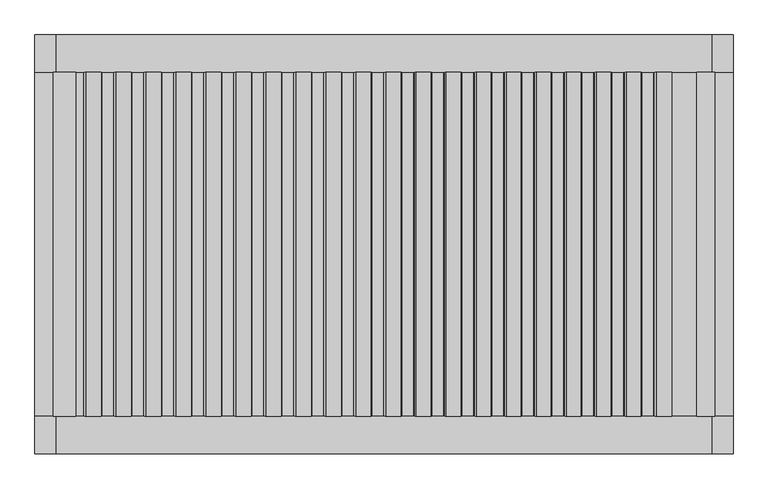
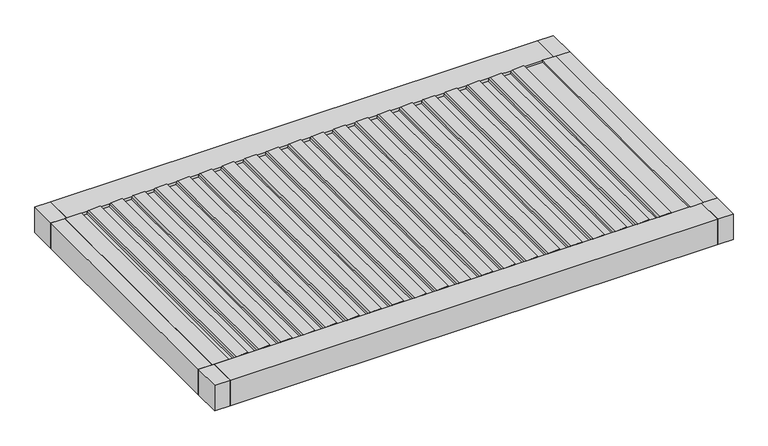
"""IFC4 building model written with IfcOpenShell, lengths in millimetres: proxy geometry, Renson_Aero_Skye_Patio covers : Aero Skye - Single."""

from ifc_helpers import new_model, si_unit, point, frame, frame_2d, origin, place, context, project, spatial, polyline, circle_curve, trimmed, segment, composite_curve, outline, extrude, source, transform, mapped, element, save


def generic_models_02a216a0(model_context):
    return source(origin(), model_context, "Body", "SweptSolid", [
        extrude(outline(composite_curve([segment(polyline([(-41.65, 1816.1728722), (-13.98802, 1818.5929819), (-12.6029636, 1847.4282323), (6.8911096, 1843.9909012), (1.6075693, 1733.9937864)]), True, "CONTINUOUS"), segment(trimmed(circle_curve(frame_2d((-13.3751565, 1734.7134583)), 15.0), [point((1.6075693, 1733.9937864))], [point((-10.7704338, 1719.941342))], False, "CARTESIAN"), True, "CONTINUOUS"), segment(polyline([(-10.7704338, 1719.941342), (-30.0, 1716.5506507), (-30.0, 1628.8148746), (-12.9211763, 1625.8034172), (-13.6549818, 1610.5264468), (-41.65, 1608.0772), (-41.65, 1816.1728722)]), True, "CONTINUOUS")], self_intersect=False)), frame((0.0, -1232.0, 0.0), z_axis=(0.0, 1.0, 0.0), x_axis=(0.0, 0.0, 1.0)), (0.0, 0.0, 1.0), 2464.0),
        extrude(outline(composite_curve([segment(polyline([(-41.65, 1601.1637734), (-13.98802, 1603.5838831), (-12.6029636, 1632.4191335), (6.8911096, 1628.9818025), (1.6075693, 1518.9846876)]), True, "CONTINUOUS"), segment(trimmed(circle_curve(frame_2d((-13.3751565, 1519.7043596)), 15.0), [point((1.6075693, 1518.9846876))], [point((-10.7704338, 1504.9322433))], False, "CARTESIAN"), True, "CONTINUOUS"), segment(polyline([(-10.7704338, 1504.9322433), (-30.0, 1501.5415519), (-30.0, 1413.8057759), (-12.9211763, 1410.7943185), (-13.6549818, 1395.517348), (-41.65, 1393.0681013), (-41.65, 1601.1637734)]), True, "CONTINUOUS")], self_intersect=False)), frame((0.0, -1232.0, 0.0), z_axis=(0.0, 1.0, 0.0), x_axis=(0.0, 0.0, 1.0)), (0.0, 0.0, 1.0), 2464.0),
        extrude(outline(composite_curve([segment(polyline([(-41.65, 1386.1546747), (-13.98802, 1388.5747843), (-12.6029636, 1417.4100348), (6.8911096, 1413.9727037), (1.6075693, 1303.9755889)]), True, "CONTINUOUS"), segment(trimmed(circle_curve(frame_2d((-13.3751565, 1304.6952608)), 15.0), [point((1.6075693, 1303.9755889))], [point((-10.7704338, 1289.9231445))], False, "CARTESIAN"), True, "CONTINUOUS"), segment(polyline([(-10.7704338, 1289.9231445), (-30.0, 1286.5324532), (-30.0, 1198.7966771), (-12.9211763, 1195.7852197), (-13.6549818, 1180.5082492), (-41.65, 1178.0590025), (-41.65, 1386.1546747)]), True, "CONTINUOUS")], self_intersect=False)), frame((0.0, -1232.0, 0.0), z_axis=(0.0, 1.0, 0.0), x_axis=(0.0, 0.0, 1.0)), (0.0, 0.0, 1.0), 2464.0),
        extrude(outline(composite_curve([segment(polyline([(-41.65, 1171.1455759), (-13.98802, 1173.5656856), (-12.6029636, 1202.400936), (6.8911096, 1198.9636049), (1.6075693, 1088.9664901)]), True, "CONTINUOUS"), segment(trimmed(circle_curve(frame_2d((-13.3751565, 1089.686162)), 15.0), [point((1.6075693, 1088.9664901))], [point((-10.7704338, 1074.9140457))], False, "CARTESIAN"), True, "CONTINUOUS"), segment(polyline([(-10.7704338, 1074.9140457), (-30.0, 1071.5233544), (-30.0, 983.7875784), (-12.9211763, 980.7761209), (-13.6549818, 965.4991505), (-41.65, 963.0499037), (-41.65, 1171.1455759)]), True, "CONTINUOUS")], self_intersect=False)), frame((0.0, -1232.0, 0.0), z_axis=(0.0, 1.0, 0.0), x_axis=(0.0, 0.0, 1.0)), (0.0, 0.0, 1.0), 2464.0),
        extrude(outline(composite_curve([segment(polyline([(-41.65, 956.1364771), (-13.98802, 958.5565868), (-12.6029636, 987.3918373), (6.8911096, 983.9545062), (1.6075693, 873.9573913)]), True, "CONTINUOUS"), segment(trimmed(circle_curve(frame_2d((-13.3751565, 874.6770633)), 15.0), [point((1.6075693, 873.9573913))], [point((-10.7704338, 859.904947))], False, "CARTESIAN"), True, "CONTINUOUS"), segment(polyline([(-10.7704338, 859.904947), (-30.0, 856.5142556), (-30.0, 768.7784796), (-12.9211763, 765.7670222), (-13.6549818, 750.4900517), (-41.65, 748.040805), (-41.65, 956.1364771)]), True, "CONTINUOUS")], self_intersect=False)), frame((0.0, -1232.0, 0.0), z_axis=(0.0, 1.0, 0.0), x_axis=(0.0, 0.0, 1.0)), (0.0, 0.0, 1.0), 2464.0),
        extrude(outline(composite_curve([segment(polyline([(-41.65, 741.1273784), (-13.98802, 743.547488), (-12.6029636, 772.3827385), (6.8911096, 768.9454074), (1.6075693, 658.9482926)]), True, "CONTINUOUS"), segment(trimmed(circle_curve(frame_2d((-13.3751565, 659.6679645)), 15.0), [point((1.6075693, 658.9482926))], [point((-10.7704338, 644.8958482))], False, "CARTESIAN"), True, "CONTINUOUS"), segment(polyline([(-10.7704338, 644.8958482), (-30.0, 641.5051569), (-30.0, 553.7693808), (-12.9211763, 550.7579234), (-13.6549818, 535.4809529), (-41.65, 533.0317062), (-41.65, 741.1273784)]), True, "CONTINUOUS")], self_intersect=False)), frame((0.0, -1232.0, 0.0), z_axis=(0.0, 1.0, 0.0), x_axis=(0.0, 0.0, 1.0)), (0.0, 0.0, 1.0), 2464.0),
        extrude(outline(composite_curve([segment(polyline([(-41.65, 526.1182796), (-13.98802, 528.5383893), (-12.6029636, 557.3736397), (6.8911096, 553.9363087), (1.6075693, 443.9391938)]), True, "CONTINUOUS"), segment(trimmed(circle_curve(frame_2d((-13.3751565, 444.6588657)), 15.0), [point((1.6075693, 443.9391938))], [point((-10.7704338, 429.8867494))], False, "CARTESIAN"), True, "CONTINUOUS"), segment(polyline([(-10.7704338, 429.8867494), (-30.0, 426.4960581), (-30.0, 338.7602821), (-12.9211763, 335.7488247), (-13.6549818, 320.4718542), (-41.65, 318.0226075), (-41.65, 526.1182796)]), True, "CONTINUOUS")], self_intersect=False)), frame((0.0, -1232.0, 0.0), z_axis=(0.0, 1.0, 0.0), x_axis=(0.0, 0.0, 1.0)), (0.0, 0.0, 1.0), 2464.0),
        extrude(outline(composite_curve([segment(polyline([(-41.65, 311.1091809), (-13.98802, 313.5292905), (-12.6029636, 342.364541), (6.8911096, 338.9272099), (1.6075693, 228.930095)]), True, "CONTINUOUS"), segment(trimmed(circle_curve(frame_2d((-13.3751565, 229.649767)), 15.0), [point((1.6075693, 228.930095))], [point((-10.7704338, 214.8776507))], False, "CARTESIAN"), True, "CONTINUOUS"), segment(polyline([(-10.7704338, 214.8776507), (-30.0, 211.4869593), (-30.0, 123.7511833), (-12.9211763, 120.7397259), (-13.6549818, 105.4627554), (-41.65, 103.0135087), (-41.65, 311.1091809)]), True, "CONTINUOUS")], self_intersect=False)), frame((0.0, -1232.0, 0.0), z_axis=(0.0, 1.0, 0.0), x_axis=(0.0, 0.0, 1.0)), (0.0, 0.0, 1.0), 2464.0),
        extrude(outline(composite_curve([segment(polyline([(-41.65, 96.1000821), (-13.98802, 98.5201917), (-12.6029636, 127.3554422), (6.8911096, 123.9181111), (1.6075693, 13.9209963)]), True, "CONTINUOUS"), segment(trimmed(circle_curve(frame_2d((-13.3751565, 14.6406682)), 15.0), [point((1.6075693, 13.9209963))], [point((-10.7704338, -0.1314481))], False, "CARTESIAN"), True, "CONTINUOUS"), segment(polyline([(-10.7704338, -0.1314481), (-30.0, -3.5221394), (-30.0, -91.2579155), (-12.9211763, -94.2693729), (-13.6549818, -109.5463433), (-41.65, -111.9955901), (-41.65, 96.1000821)]), True, "CONTINUOUS")], self_intersect=False)), frame((0.0, -1232.0, 0.0), z_axis=(0.0, 1.0, 0.0), x_axis=(0.0, 0.0, 1.0)), (0.0, 0.0, 1.0), 2464.0),
        extrude(outline(composite_curve([segment(polyline([(-41.65, -118.9090167), (-13.98802, -116.488907), (-12.6029636, -87.6536566), (6.8911096, -91.0909876), (1.6075693, -201.0881025)]), True, "CONTINUOUS"), segment(trimmed(circle_curve(frame_2d((-13.3751565, -200.3684306)), 15.0), [point((1.6075693, -201.0881025))], [point((-10.7704338, -215.1405469))], False, "CARTESIAN"), True, "CONTINUOUS"), segment(polyline([(-10.7704338, -215.1405469), (-30.0, -218.5312382), (-30.0, -306.2670142), (-12.9211763, -309.2784716), (-13.6549818, -324.5554421), (-41.65, -327.0046888), (-41.65, -118.9090167)]), True, "CONTINUOUS")], self_intersect=False)), frame((0.0, -1232.0, 0.0), z_axis=(0.0, 1.0, 0.0), x_axis=(0.0, 0.0, 1.0)), (0.0, 0.0, 1.0), 2464.0),
        extrude(outline(composite_curve([segment(polyline([(-41.65, -333.9181154), (-13.98802, -331.4980058), (-12.6029636, -302.6627553), (6.8911096, -306.1000864), (1.6075693, -416.0972012)]), True, "CONTINUOUS"), segment(trimmed(circle_curve(frame_2d((-13.3751565, -415.3775293)), 15.0), [point((1.6075693, -416.0972012))], [point((-10.7704338, -430.1496456))], False, "CARTESIAN"), True, "CONTINUOUS"), segment(polyline([(-10.7704338, -430.1496456), (-30.0, -433.540337), (-30.0, -521.276113), (-12.9211763, -524.2875704), (-13.6549818, -539.5645409), (-41.65, -542.0137876), (-41.65, -333.9181154)]), True, "CONTINUOUS")], self_intersect=False)), frame((0.0, -1232.0, 0.0), z_axis=(0.0, 1.0, 0.0), x_axis=(0.0, 0.0, 1.0)), (0.0, 0.0, 1.0), 2464.0),
        extrude(outline(composite_curve([segment(polyline([(-41.65, -548.9272142), (-13.98802, -546.5071045), (-12.6029636, -517.6718541), (6.8911096, -521.1091852), (1.6075693, -631.1063)]), True, "CONTINUOUS"), segment(trimmed(circle_curve(frame_2d((-13.3751565, -630.3866281)), 15.0), [point((1.6075693, -631.1063))], [point((-10.7704338, -645.1587444))], False, "CARTESIAN"), True, "CONTINUOUS"), segment(polyline([(-10.7704338, -645.1587444), (-30.0, -648.5494357), (-30.0, -736.2852117), (-12.9211763, -739.2966692), (-13.6549818, -754.5736396), (-41.65, -757.0228864), (-41.65, -548.9272142)]), True, "CONTINUOUS")], self_intersect=False)), frame((0.0, -1232.0, 0.0), z_axis=(0.0, 1.0, 0.0), x_axis=(0.0, 0.0, 1.0)), (0.0, 0.0, 1.0), 2464.0),
        extrude(outline(composite_curve([segment(polyline([(-41.65, -763.936313), (-13.98802, -761.5162033), (-12.6029636, -732.6809528), (6.8911096, -736.1182839), (1.6075693, -846.1153988)]), True, "CONTINUOUS"), segment(trimmed(circle_curve(frame_2d((-13.3751565, -845.3957268)), 15.0), [point((1.6075693, -846.1153988))], [point((-10.7704338, -860.1678431))], False, "CARTESIAN"), True, "CONTINUOUS"), segment(polyline([(-10.7704338, -860.1678431), (-30.0, -863.5585345), (-30.0, -951.2943105), (-12.9211763, -954.3057679), (-13.6549818, -969.5827384), (-41.65, -972.0319851), (-41.65, -763.936313)]), True, "CONTINUOUS")], self_intersect=False)), frame((0.0, -1232.0, 0.0), z_axis=(0.0, 1.0, 0.0), x_axis=(0.0, 0.0, 1.0)), (0.0, 0.0, 1.0), 2464.0),
        extrude(outline(composite_curve([segment(polyline([(-41.65, -978.9454117), (-13.98802, -976.5253021), (-12.6029636, -947.6900516), (6.8911096, -951.1273827), (1.6075693, -1061.1244975)]), True, "CONTINUOUS"), segment(trimmed(circle_curve(frame_2d((-13.3751565, -1060.4048256)), 15.0), [point((1.6075693, -1061.1244975))], [point((-10.7704338, -1075.1769419))], False, "CARTESIAN"), True, "CONTINUOUS"), segment(polyline([(-10.7704338, -1075.1769419), (-30.0, -1078.5676332), (-30.0, -1166.3034093), (-12.9211763, -1169.3148667), (-13.6549818, -1184.5918372), (-41.65, -1187.0410839), (-41.65, -978.9454117)]), True, "CONTINUOUS")], self_intersect=False)), frame((0.0, -1232.0, 0.0), z_axis=(0.0, 1.0, 0.0), x_axis=(0.0, 0.0, 1.0)), (0.0, 0.0, 1.0), 2464.0),
        extrude(outline(composite_curve([segment(polyline([(-41.65, -1193.9545105), (-13.98802, -1191.5344008), (-12.6029636, -1162.6991504), (6.8911096, -1166.1364815), (1.6075693, -1276.1335963)]), True, "CONTINUOUS"), segment(trimmed(circle_curve(frame_2d((-13.3751565, -1275.4139244)), 15.0), [point((1.6075693, -1276.1335963))], [point((-10.7704338, -1290.1860407))], False, "CARTESIAN"), True, "CONTINUOUS"), segment(polyline([(-10.7704338, -1290.1860407), (-30.0, -1293.576732), (-30.0, -1381.312508), (-12.9211763, -1384.3239655), (-13.6549818, -1399.6009359), (-41.65, -1402.0501827), (-41.65, -1193.9545105)]), True, "CONTINUOUS")], self_intersect=False)), frame((0.0, -1232.0, 0.0), z_axis=(0.0, 1.0, 0.0), x_axis=(0.0, 0.0, 1.0)), (0.0, 0.0, 1.0), 2464.0),
        extrude(outline(composite_curve([segment(polyline([(-41.65, -1408.9636093), (-13.98802, -1406.5434996), (-12.6029636, -1377.7082491), (6.8911096, -1381.1455802), (1.6075693, -1491.1426951)]), True, "CONTINUOUS"), segment(trimmed(circle_curve(frame_2d((-13.3751565, -1490.4230231)), 15.0), [point((1.6075693, -1491.1426951))], [point((-10.7704338, -1505.1951394))], False, "CARTESIAN"), True, "CONTINUOUS"), segment(polyline([(-10.7704338, -1505.1951394), (-30.0, -1508.5858308), (-30.0, -1596.3216068), (-12.9211763, -1599.3330642), (-13.6549818, -1614.6100347), (-41.65, -1617.0592814), (-41.65, -1408.9636093)]), True, "CONTINUOUS")], self_intersect=False)), frame((0.0, -1232.0, 0.0), z_axis=(0.0, 1.0, 0.0), x_axis=(0.0, 0.0, 1.0)), (0.0, 0.0, 1.0), 2464.0),
        extrude(outline(composite_curve([segment(polyline([(-41.65, -1623.972708), (-13.98802, -1621.5525984), (-12.6029636, -1592.7173479), (6.8911096, -1596.154679), (1.6075693, -1706.1517938)]), True, "CONTINUOUS"), segment(trimmed(circle_curve(frame_2d((-13.3751565, -1705.4321219)), 15.0), [point((1.6075693, -1706.1517938))], [point((-10.7704338, -1720.2042382))], False, "CARTESIAN"), True, "CONTINUOUS"), segment(polyline([(-10.7704338, -1720.2042382), (-30.0, -1723.5949295), (-30.0, -1811.3307056), (-12.9211763, -1814.342163), (-13.6549818, -1829.6191335), (-41.65, -1832.0683802), (-41.65, -1623.972708)]), True, "CONTINUOUS")], self_intersect=False)), frame((0.0, -1232.0, 0.0), z_axis=(0.0, 1.0, 0.0), x_axis=(0.0, 0.0, 1.0)), (0.0, 0.0, 1.0), 2464.0),
        extrude(outline(composite_curve([segment(polyline([(-41.65, -1838.9818068), (-13.98802, -1836.5616971), (-12.6029636, -1807.7264467), (6.8911096, -1811.1637777), (1.6075693, -1921.1608926)]), True, "CONTINUOUS"), segment(trimmed(circle_curve(frame_2d((-13.3751565, -1920.4412207)), 15.0), [point((1.6075693, -1921.1608926))], [point((-10.7704338, -1935.213337))], False, "CARTESIAN"), True, "CONTINUOUS"), segment(polyline([(-10.7704338, -1935.213337), (-30.0, -1938.6040283), (-30.0, -2026.3398043), (-12.9211763, -2029.3512617), (-13.6549818, -2044.6282322), (-41.65, -2047.0774789), (-41.65, -1838.9818068)]), True, "CONTINUOUS")], self_intersect=False)), frame((0.0, -1232.0, 0.0), z_axis=(0.0, 1.0, 0.0), x_axis=(0.0, 0.0, 1.0)), (0.0, 0.0, 1.0), 2464.0),
        extrude(outline(composite_curve([segment(polyline([(-41.65, 2031.181971), (-13.98802, 2033.6020806), (-12.6029636, 2062.4373311), (6.8911096, 2059.0), (1.6075693, 1949.0028852)]), True, "CONTINUOUS"), segment(trimmed(circle_curve(frame_2d((-13.3751565, 1949.7225571)), 15.0), [point((1.6075693, 1949.0028852))], [point((-10.7704338, 1934.9504408))], False, "CARTESIAN"), True, "CONTINUOUS"), segment(polyline([(-10.7704338, 1934.9504408), (-30.0, 1931.5597494), (-30.0, 1843.8239734), (-12.9211763, 1840.812516), (-13.6549818, 1825.5355455), (-41.65, 1823.0862988), (-41.65, 2031.181971)]), True, "CONTINUOUS")], self_intersect=False)), frame((0.0, -1232.0, 0.0), z_axis=(0.0, 1.0, 0.0), x_axis=(0.0, 0.0, 1.0)), (0.0, 0.0, 1.0), 2464.0),
        extrude(outline(composite_curve([segment(polyline([(-41.65, -2053.9909055), (-13.98802, -2051.5707959), (-12.6029636, -2022.7355454), (6.8911096, -2026.1728765), (1.6075693, -2136.1699914)]), True, "CONTINUOUS"), segment(trimmed(circle_curve(frame_2d((-13.3751565, -2135.4503194)), 15.0), [point((1.6075693, -2136.1699914))], [point((-10.7704338, -2150.2224357))], False, "CARTESIAN"), True, "CONTINUOUS"), segment(polyline([(-10.7704338, -2150.2224357), (-30.0, -2153.6131271), (-30.0, -2241.3489031), (-12.9211763, -2244.3603605), (-13.6549818, -2259.637331), (-41.65, -2262.0865777), (-41.65, -2053.9909055)]), True, "CONTINUOUS")], self_intersect=False)), frame((0.0, -1232.0, 0.0), z_axis=(0.0, 1.0, 0.0), x_axis=(0.0, 0.0, 1.0)), (0.0, 0.0, 1.0), 2464.0),
        extrude(outline(polyline([(-63.35, 2369.0), (0.0, 2369.0), (0.0, 2239.5), (-20.0, 2239.5), (-20.0, 2059.0), (-44.0, 2059.0), (-44.0, 2209.0), (-63.35, 2209.0), (-63.35, 2369.0)])), frame((0.0, -1232.0, 0.0), z_axis=(0.0, 1.0, 0.0), x_axis=(0.0, 0.0, 1.0)), (0.0, 0.0, 1.0), 2464.0),
        extrude(outline(polyline([(0.0, -2209.0), (0.0, -2369.0), (-44.0, -2369.0), (-44.0, -2236.3193336), (-10.8283397, -2233.4171894), (-9.655498, -2209.0), (0.0, -2209.0)])), frame((0.0, -1232.0, 0.0), z_axis=(0.0, 1.0, 0.0), x_axis=(0.0, 0.0, 1.0)), (0.0, 0.0, 1.0), 2464.0),
        extrude(outline(polyline([(2500.0, -1500.0), (2350.0, -1500.0), (2350.0, -1232.0), (2500.0, -1232.0), (2500.0, -1500.0)])), frame((0.0, 0.0, -260.0), z_axis=(0.0, 0.0, 1.0), x_axis=(1.0, 0.0, 0.0)), (0.0, 0.0, 1.0), 260.0),
        extrude(outline(polyline([(-2500.0, -1500.0), (-2500.0, -1232.0), (-2350.0, -1232.0), (-2350.0, -1500.0), (-2500.0, -1500.0)])), frame((0.0, 0.0, -260.0), z_axis=(0.0, 0.0, 1.0), x_axis=(1.0, 0.0, 0.0)), (0.0, 0.0, 1.0), 260.0),
        extrude(outline(polyline([(-2350.0, 1232.0), (-2500.0, 1232.0), (-2500.0, 1500.0), (-2350.0, 1500.0), (-2350.0, 1232.0)])), frame((0.0, 0.0, -260.0), z_axis=(0.0, 0.0, 1.0), x_axis=(1.0, 0.0, 0.0)), (0.0, 0.0, 1.0), 260.0),
        extrude(outline(polyline([(2500.0, 1500.0), (2500.0, 1232.0), (2350.0, 1232.0), (2350.0, 1500.0), (2500.0, 1500.0)])), frame((0.0, 0.0, -260.0), z_axis=(0.0, 0.0, 1.0), x_axis=(1.0, 0.0, 0.0)), (0.0, 0.0, 1.0), 260.0),
        extrude(outline(polyline([(-1232.0, -188.0), (-1170.0, -188.0), (-1170.0, -260.0), (-1500.0, -260.0), (-1500.0, 0.0), (-1232.0, 0.0), (-1232.0, -188.0)])), frame((-2350.0, 0.0, 0.0), z_axis=(1.0, 0.0, 0.0), x_axis=(0.0, 1.0, 0.0)), (0.0, 0.0, 1.0), 4700.0),
        extrude(outline(polyline([(1232.0, -188.0), (1232.0, 0.0), (1500.0, 0.0), (1500.0, -260.0), (1170.0, -260.0), (1170.0, -188.0), (1232.0, -188.0)])), frame((-2350.0, 0.0, 0.0), z_axis=(1.0, 0.0, 0.0), x_axis=(0.0, 1.0, 0.0)), (0.0, 0.0, 1.0), 4700.0),
        extrude(outline(polyline([(-64.0, 2369.0), (-64.0, 2350.0), (-260.0, 2350.0), (-260.0, 2500.0), (0.0, 2500.0), (0.0, 2369.0), (-64.0, 2369.0)])), frame((0.0, -1232.0, 0.0), z_axis=(0.0, 1.0, 0.0), x_axis=(0.0, 0.0, 1.0)), (0.0, 0.0, 1.0), 2464.0),
        extrude(outline(polyline([(-64.0, -2369.0), (0.0, -2369.0), (0.0, -2500.0), (-260.0, -2500.0), (-260.0, -2350.0), (-64.0, -2350.0), (-64.0, -2369.0)])), frame((0.0, -1232.0, 0.0), z_axis=(0.0, 1.0, 0.0), x_axis=(0.0, 0.0, 1.0)), (0.0, 0.0, 1.0), 2464.0),
    ])


if __name__ == "__main__":
    model = new_model("IFC4")
    model_context = context("Model", 3, world=origin())
    ifc_project = project(units=[si_unit("LENGTHUNIT", "METRE", prefix="MILLI")], contexts=[model_context])
    site = spatial("IfcSite", under=ifc_project)
    building = spatial("IfcBuilding", under=site)
    placement = place(None, origin())
    generic_models_shape = generic_models_02a216a0(model_context)
    element("IfcBuildingElementProxy", 1, Name="Renson_Aero_Skye_Patio covers : Aero Skye - Single", ObjectType="Renson_Aero_Skye_Patio covers : Aero Skye - Single", at=placement, inside=building, context=model_context, shape_type="MappedRepresentation", body=[
        mapped(generic_models_shape, transform((0.0, 0.0, 0.0), x_axis=(1.0, 0.0, 0.0), y_axis=(0.0, 1.0, 0.0), z_axis=(0.0, 0.0, 1.0))),
    ])
    save(model, "model.ifc")
